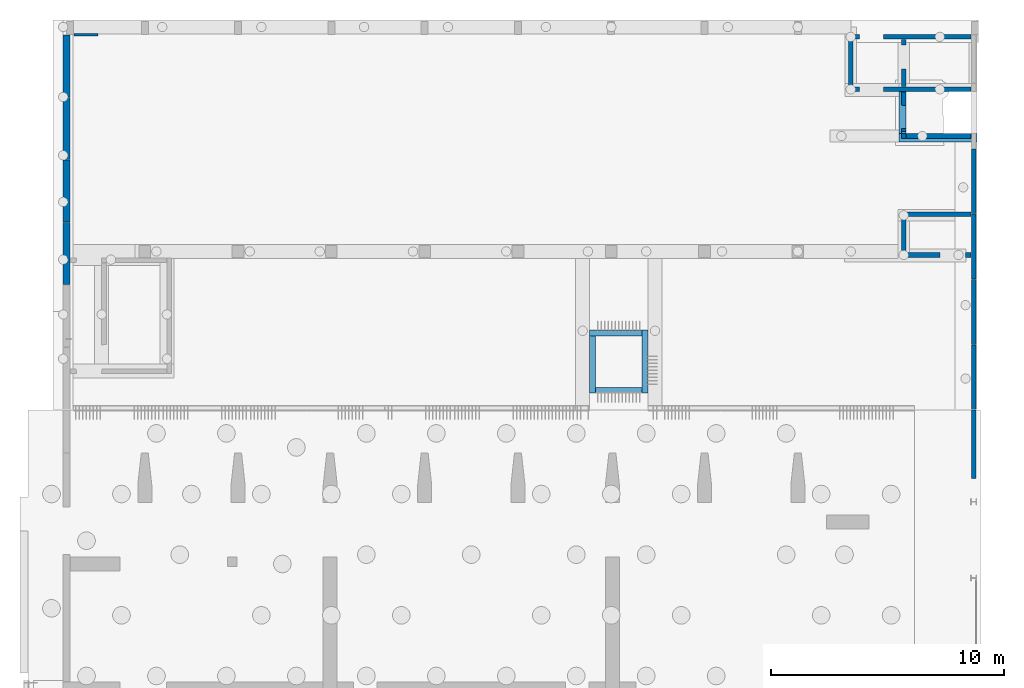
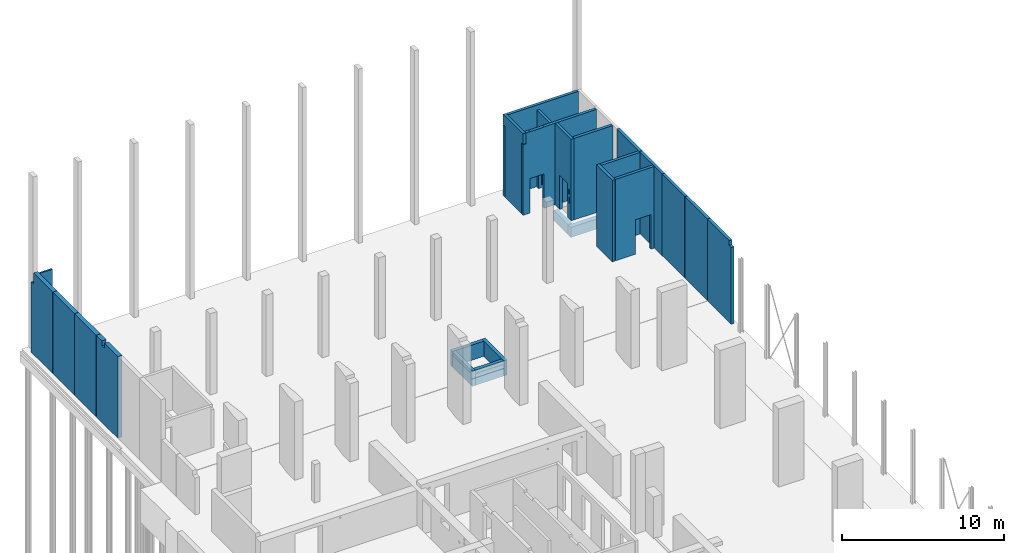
# One storey, part 20 of 26: 25 walls, 24 openings.
"""IFC2X3 building model written with IfcOpenShell, lengths in millimetres."""

from ifc_helpers import new_model, entity, si_unit, converted_unit, derived_unit, direction, frame, frame_2d, origin, origin_2d_with_axis, place, context, subcontext, project, spatial, polyline, rectangle, outline, extrude, clip, bounded_halfspace, faceted_brep, material, layer, layer_set, layer_usage, type_object, element, save


model = new_model("IFC2X3")

# Units and contexts
model_context = context("Model", 3, precision=0.01, world=origin(), true_north=direction((6.12303176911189e-17, 1.0)))
body_context = subcontext(model_context, "Body", "Model", "MODEL_VIEW")
ifc_project = project(units=[si_unit("LENGTHUNIT", "METRE", prefix="MILLI"), si_unit("AREAUNIT", "SQUARE_METRE"), si_unit("VOLUMEUNIT", "CUBIC_METRE"), converted_unit("PLANEANGLEUNIT", "DEGREE", entity("IfcRatioMeasure", 0.0174532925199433), si_unit("PLANEANGLEUNIT", "RADIAN"), dimensions=[0, 0, 0, 0, 0, 0, 0]), si_unit("MASSUNIT", "GRAM", prefix="KILO"), derived_unit("MASSDENSITYUNIT", [(si_unit("MASSUNIT", "GRAM", prefix="KILO"), 1), (si_unit("LENGTHUNIT", "METRE"), -3)]), si_unit("TIMEUNIT", "SECOND"), si_unit("FREQUENCYUNIT", "HERTZ"), si_unit("THERMODYNAMICTEMPERATUREUNIT", "DEGREE_CELSIUS"), derived_unit("THERMALTRANSMITTANCEUNIT", [(si_unit("MASSUNIT", "GRAM", prefix="KILO"), 1), (si_unit("THERMODYNAMICTEMPERATUREUNIT", "KELVIN"), -1), (si_unit("TIMEUNIT", "SECOND"), -3)]), derived_unit("VOLUMETRICFLOWRATEUNIT", [(si_unit("LENGTHUNIT", "METRE"), 3), (si_unit("TIMEUNIT", "SECOND"), -1)]), si_unit("ELECTRICCURRENTUNIT", "AMPERE"), si_unit("ELECTRICVOLTAGEUNIT", "VOLT"), si_unit("POWERUNIT", "WATT"), si_unit("FORCEUNIT", "NEWTON", prefix="KILO"), si_unit("ILLUMINANCEUNIT", "LUX"), si_unit("LUMINOUSFLUXUNIT", "LUMEN"), si_unit("LUMINOUSINTENSITYUNIT", "CANDELA"), derived_unit("USERDEFINED", [(si_unit("MASSUNIT", "GRAM", prefix="KILO"), -1), (si_unit("LENGTHUNIT", "METRE"), -2), (si_unit("TIMEUNIT", "SECOND"), 3), (si_unit("LUMINOUSFLUXUNIT", "LUMEN"), 1)]), derived_unit("LINEARVELOCITYUNIT", [(si_unit("LENGTHUNIT", "METRE"), 1), (si_unit("TIMEUNIT", "SECOND"), -1)]), si_unit("PRESSUREUNIT", "PASCAL"), derived_unit("USERDEFINED", [(si_unit("LENGTHUNIT", "METRE"), -2), (si_unit("MASSUNIT", "GRAM", prefix="KILO"), 1), (si_unit("TIMEUNIT", "SECOND"), -2)])], contexts=[model_context])

# Site, building, storey
site_placement = place(None, origin())
site = spatial("IfcSite", under=ifc_project, at=site_placement, Name="Default", CompositionType="ELEMENT")
building_placement = place(site_placement, origin())
building = spatial("IfcBuilding", under=site, at=building_placement, Name="niet gebruiken", CompositionType="ELEMENT")
storey_placement = place(building_placement, origin())
storey = spatial("IfcBuildingStorey", under=building, at=storey_placement, Name="00 begane grond", CompositionType="ELEMENT", Elevation=0.0)

# Wall, opening
ifc_material_1 = material(Name="NLRS_f2_beton prefab")
ifc_layer_1 = layer(ifc_material_1, 200.0)
ifc_layer_set_1 = layer_set([ifc_layer_1], Name="Basic Wall:NLRS_21.21_WA_beton prefab d=200_gen")
ifc_layer_usage_1 = layer_usage(ifc_layer_set_1, "AXIS2", "NEGATIVE", 100.0)
wall_type_1 = type_object("IfcWallType", Name="Basic Wall:NLRS_21.21_WA_beton prefab d=200_gen", PredefinedType="STANDARD", material=ifc_layer_set_1)
wall_1_placement = place(storey_placement, frame((163290.0, 33770.0, -220.0), z_axis=(0.0, 0.0, 1.0), x_axis=(0.0, 1.0, 0.0)))
wall_1 = element("IfcWallStandardCase", 1, at=wall_1_placement, inside=storey, type_object=wall_type_1, material=ifc_layer_usage_1, Name="Basic Wall:NLRS_21.21_WA_beton prefab d=200_gen", ObjectType="Basic Wall:NLRS_21.21_WA_beton prefab d=200_gen", context=body_context, shape_type="SweptSolid", body=[
    extrude(rectangle(XDim=2930.00000000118, YDim=200.000000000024, at=frame_2d((1465.00000000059, 0.0), x_axis=(-1.0, 0.0))), origin(), (0.0, 0.0, 1.0), 6150.0),
])
opening_1_placement = place(wall_1_placement, origin())
element("IfcOpeningElement", 2, at=opening_1_placement, cuts=wall_1, Name="Basic Wall:NLRS_21.21_WA_beton prefab d=200_gen", ObjectType="Opening", context=body_context, shape_type="SweptSolid", body=[
    extrude(rectangle(XDim=359.999999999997, YDim=256.999999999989, at=frame_2d((2.17426077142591e-12, 0.0), x_axis=(0.0, 1.0))), frame((128.499999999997, 100.0, 5970.0), z_axis=(0.0, -1.0, 0.0), x_axis=(-1.0, 0.0, 0.0)), (0.0, 0.0, 1.0), 200.0),
])

# Walls
ifc_layer_usage_2 = layer_usage(ifc_layer_set_1, "AXIS2", "NEGATIVE", 100.0)
wall_2_placement = place(storey_placement, frame((163290.0, 36720.0, -220.0), z_axis=(0.0, 0.0, 1.0), x_axis=(0.0, 1.0, 0.0)))
element("IfcWallStandardCase", 3, at=wall_2_placement, inside=storey, type_object=wall_type_1, material=ifc_layer_usage_2, Name="Basic Wall:NLRS_21.21_WA_beton prefab d=200_gen", ObjectType="Basic Wall:NLRS_21.21_WA_beton prefab d=200_gen", context=body_context, shape_type="SweptSolid", body=[
    extrude(rectangle(XDim=2780.0, YDim=200.000000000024, at=frame_2d((1390.0, 0.0), x_axis=(-1.0, 0.0))), origin(), (0.0, 0.0, 1.0), 6150.0),
])
ifc_layer_usage_3 = layer_usage(ifc_layer_set_1, "AXIS2", "NEGATIVE", 100.0)
wall_3_placement = place(storey_placement, frame((163290.0, 39520.0, -220.0), z_axis=(0.0, 0.0, 1.0), x_axis=(0.0, 1.0, 0.0)))
element("IfcWallStandardCase", 4, at=wall_3_placement, inside=storey, type_object=wall_type_1, material=ifc_layer_usage_3, Name="Basic Wall:NLRS_21.21_WA_beton prefab d=200_gen", ObjectType="Basic Wall:NLRS_21.21_WA_beton prefab d=200_gen", context=body_context, shape_type="SweptSolid", body=[
    extrude(rectangle(XDim=2780.0, YDim=200.000000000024, at=frame_2d((1390.0, 0.0), x_axis=(-1.0, 0.0))), origin(), (0.0, 0.0, 1.0), 6150.0),
])
ifc_layer_usage_4 = layer_usage(ifc_layer_set_1, "AXIS2", "NEGATIVE", 100.0)
wall_4_placement = place(storey_placement, frame((163290.0, 42320.0, -220.0), z_axis=(0.0, 0.0, 1.0), x_axis=(0.0, 1.0, 0.0)))
element("IfcWallStandardCase", 5, at=wall_4_placement, inside=storey, type_object=wall_type_1, material=ifc_layer_usage_4, Name="Basic Wall:NLRS_21.21_WA_beton prefab d=200_gen", ObjectType="Basic Wall:NLRS_21.21_WA_beton prefab d=200_gen", context=body_context, shape_type="SweptSolid", body=[
    extrude(rectangle(XDim=2780.0, YDim=200.000000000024, at=frame_2d((1390.0, 0.0), x_axis=(-1.0, 0.0))), origin(), (0.0, 0.0, 1.0), 6150.0),
])
ifc_layer_usage_5 = layer_usage(ifc_layer_set_1, "AXIS2", "NEGATIVE", 100.0)
wall_5_placement = place(storey_placement, frame((163290.0, 45120.0, -220.0), z_axis=(0.0, 0.0, 1.0), x_axis=(0.0, 1.0, 0.0)))
element("IfcWallStandardCase", 6, at=wall_5_placement, inside=storey, type_object=wall_type_1, material=ifc_layer_usage_5, Name="Basic Wall:NLRS_21.21_WA_beton prefab d=200_gen", ObjectType="Basic Wall:NLRS_21.21_WA_beton prefab d=200_gen", context=body_context, shape_type="SweptSolid", body=[
    extrude(rectangle(XDim=2780.0, YDim=200.000000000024, at=frame_2d((1390.0, 0.0), x_axis=(-1.0, 0.0))), origin(), (0.0, 0.0, 1.0), 6150.0),
])
ifc_layer_2 = layer(ifc_material_1, 200.0)
ifc_layer_set_2 = layer_set([ifc_layer_2], Name="Basic Wall:NLRS_22.21_WA_beton prefab d=200_gen")
ifc_layer_usage_6 = layer_usage(ifc_layer_set_2, "AXIS2", "NEGATIVE", 100.0)
wall_type_2 = type_object("IfcWallType", Name="Basic Wall:NLRS_22.21_WA_beton prefab d=200_gen", PredefinedType="STANDARD", material=ifc_layer_set_2)
wall_6_placement = place(storey_placement, frame((160410.0, 45100.0, -220.0)))
element("IfcWallStandardCase", 7, at=wall_6_placement, inside=storey, type_object=wall_type_2, material=ifc_layer_usage_6, Name="Basic Wall:NLRS_22.21_WA_beton prefab d=200_gen", ObjectType="Basic Wall:NLRS_22.21_WA_beton prefab d=200_gen", context=body_context, shape_type="SweptSolid", body=[
    extrude(rectangle(XDim=2760.00000000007, YDim=200.000000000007, at=frame_2d((1380.00000000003, -2.27373675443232e-13), x_axis=(-1.0, 0.0))), origin(), (0.0, 0.0, 1.0), 6150.0),
])

# Wall, openings
ifc_layer_usage_7 = layer_usage(ifc_layer_set_2, "AXIS2", "NEGATIVE", 100.0)
wall_7_placement = place(storey_placement, frame((160410.0, 43350.0, -220.0)))
wall_7 = element("IfcWallStandardCase", 8, at=wall_7_placement, inside=storey, type_object=wall_type_2, material=ifc_layer_usage_7, Name="Basic Wall:NLRS_22.21_WA_beton prefab d=200_gen", ObjectType="Basic Wall:NLRS_22.21_WA_beton prefab d=200_gen", context=body_context, shape_type="SweptSolid", body=[
    extrude(rectangle(XDim=2760.00000000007, YDim=200.000000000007, at=frame_2d((1380.00000000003, -2.27373675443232e-13), x_axis=(-1.0, 0.0))), origin(), (0.0, 0.0, 1.0), 6150.0),
])
opening_2_placement = place(wall_7_placement, origin())
element("IfcOpeningElement", 9, at=opening_2_placement, cuts=wall_7, Name="Basic Wall:NLRS_22.21_WA_beton prefab d=200_gen", ObjectType="Opening", context=body_context, shape_type="SweptSolid", body=[
    extrude(rectangle(XDim=2605.0, YDim=1080.0, at=origin_2d_with_axis()), frame((1980.0, -100.0, 1302.5), z_axis=(0.0, 1.0, 0.0), x_axis=(0.0, 0.0, -1.0)), (0.0, 0.0, 1.0), 200.000000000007),
])
opening_3_placement = place(wall_7_placement, frame((1428.0, -100.0, 0.0)))
element("IfcOpeningElement", 10, at=opening_3_placement, cuts=wall_7, Name="Basic Wall:NLRS_22.21_WA_beton prefab d=200_gen", ObjectType="Opening", context=body_context, shape_type="Brep", body=[
    faceted_brep([(12.0, 0.0, 2605.0), (12.0, 0.0, 0.0), (1092.0, 0.0, 0.0), (1092.0, 0.0, 2605.0), (0.0, 200.0, 2617.0), (1104.0, 200.0, 2617.0), (1104.0, 200.0, 0.0), (0.0, 200.0, 0.0)], [[[0, 1, 2, 3]], [[4, 5, 6, 7]], [[4, 0, 3, 5]], [[5, 3, 2, 6]], [[6, 2, 1, 7]], [[7, 1, 0, 4]]]),
])

# Walls
ifc_layer_usage_8 = layer_usage(ifc_layer_set_2, "AXIS2", "NEGATIVE", 100.0)
wall_8_placement = place(storey_placement, frame((160290.0, 43250.0, -220.0), z_axis=(0.0, 0.0, 1.0), x_axis=(0.0, 1.0, 0.0)))
element("IfcWallStandardCase", 11, at=wall_8_placement, inside=storey, type_object=wall_type_2, material=ifc_layer_usage_8, Name="Basic Wall:NLRS_22.21_WA_beton prefab d=200_gen", ObjectType="Basic Wall:NLRS_22.21_WA_beton prefab d=200_gen", context=body_context, shape_type="SweptSolid", body=[
    extrude(rectangle(XDim=1950.00000000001, YDim=200.000000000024, at=frame_2d((975.000000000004, 8.95283847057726e-13), x_axis=(-1.0, 0.0))), origin(), (0.0, 0.0, 1.0), 6150.0),
])
ifc_layer_usage_9 = layer_usage(ifc_layer_set_2, "AXIS2", "POSITIVE", -100.0)
wall_9_placement = place(storey_placement, frame((160410.0, 48450.0, -220.0)))
element("IfcWallStandardCase", 12, at=wall_9_placement, inside=storey, type_object=wall_type_2, material=ifc_layer_usage_9, Name="Basic Wall:NLRS_22.21_WA_beton prefab d=200_gen", ObjectType="Basic Wall:NLRS_22.21_WA_beton prefab d=200_gen", context=body_context, shape_type="SweptSolid", body=[
    extrude(rectangle(XDim=2759.99999999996, YDim=200.000000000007, at=frame_2d((1379.99999999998, -2.27373675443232e-13), x_axis=(-1.0, 0.0))), origin(), (0.0, 0.0, 1.0), 6150.0),
])

# Wall, openings
ifc_layer_usage_10 = layer_usage(ifc_layer_set_2, "AXIS2", "NEGATIVE", 100.0)
wall_10_placement = place(storey_placement, frame((157920.0, 50450.0, -220.0)))
wall_10 = element("IfcWallStandardCase", 13, at=wall_10_placement, inside=storey, type_object=wall_type_2, material=ifc_layer_usage_10, Name="Basic Wall:NLRS_22.21_WA_beton prefab d=200_gen", ObjectType="Basic Wall:NLRS_22.21_WA_beton prefab d=200_gen", context=body_context, shape_type="SweptSolid", body=[
    extrude(rectangle(XDim=5249.99999999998, YDim=200.000000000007, at=frame_2d((2624.99999999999, -8.59756710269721e-13), x_axis=(-1.0, 0.0))), origin(), (0.0, 0.0, 1.0), 6150.0),
])
opening_4_placement = place(wall_10_placement, origin())
element("IfcOpeningElement", 14, at=opening_4_placement, cuts=wall_10, Name="Basic Wall:NLRS_22.21_WA_beton prefab d=200_gen", ObjectType="Opening", context=body_context, shape_type="SweptSolid", body=[
    extrude(rectangle(XDim=820.0, YDim=219.999999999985, at=frame_2d((0.0, 1.73301373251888e-11), x_axis=(1.0, 0.0))), frame((110.0, -100.0, 5740.0), z_axis=(0.0, 1.0, 0.0), x_axis=(0.0, 0.0, -1.0)), (0.0, 0.0, 1.0), 200.000000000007),
])
opening_5_placement = place(wall_10_placement, origin())
element("IfcOpeningElement", 15, at=opening_5_placement, cuts=wall_10, Name="Basic Wall:NLRS_22.21_WA_beton prefab d=200_gen", ObjectType="Opening", context=body_context, shape_type="SweptSolid", body=[
    extrude(rectangle(XDim=2605.0, YDim=1016.00000000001, at=origin_2d_with_axis()), frame((989.0, -100.0, 1302.5), z_axis=(0.0, 1.0, 0.0), x_axis=(0.0, 0.0, -1.0)), (0.0, 0.0, 1.0), 200.000000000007),
])
opening_6_placement = place(wall_10_placement, frame((469.0, -100.0, 0.0)))
element("IfcOpeningElement", 16, at=opening_6_placement, cuts=wall_10, Name="Basic Wall:NLRS_22.21_WA_beton prefab d=200_gen", ObjectType="Opening", context=body_context, shape_type="Brep", body=[
    faceted_brep([(1028.0, 0.0, 2605.0), (12.0, 0.0, 2605.0), (12.0, 0.0, 0.0), (1028.0, 0.0, 0.0), (1040.0, 200.0, 2617.0), (1040.0, 200.0, 0.0), (0.0, 200.0, 0.0), (0.0, 200.0, 2617.0)], [[[0, 1, 2, 3]], [[4, 5, 6, 7]], [[4, 7, 1, 0]], [[7, 6, 2, 1]], [[6, 5, 3, 2]], [[5, 4, 0, 3]]]),
])
opening_7_placement = place(wall_10_placement, origin())
element("IfcOpeningElement", 17, at=opening_7_placement, cuts=wall_10, Name="Basic Wall:NLRS_22.21_WA_beton prefab d=200_gen", ObjectType="Opening", context=body_context, shape_type="SweptSolid", body=[
    extrude(rectangle(XDim=19.9999999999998, YDim=1040.00000000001, at=frame_2d((0.0, 1.72803993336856e-11), x_axis=(1.0, 0.0))), frame((989.0, -100.0, 6140.0), z_axis=(0.0, 1.0, 0.0), x_axis=(0.0, 0.0, -1.0)), (0.0, 0.0, 1.0), 200.000000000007),
])

ifc_layer_usage_11 = layer_usage(ifc_layer_set_2, "AXIS2", "NEGATIVE", 100.0)
wall_11_placement = place(storey_placement, frame((157920.0, 52700.0, -220.0)))
wall_11 = element("IfcWallStandardCase", 18, at=wall_11_placement, inside=storey, type_object=wall_type_2, material=ifc_layer_usage_11, Name="Basic Wall:NLRS_22.21_WA_beton prefab d=200_gen", ObjectType="Basic Wall:NLRS_22.21_WA_beton prefab d=200_gen", context=body_context, shape_type="SweptSolid", body=[
    extrude(rectangle(XDim=5250.00000000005, YDim=200.000000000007, at=frame_2d((2625.00000000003, -8.59756710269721e-13), x_axis=(-1.0, 0.0))), origin(), (0.0, 0.0, 1.0), 6150.0),
])
opening_8_placement = place(wall_11_placement, origin())
element("IfcOpeningElement", 19, at=opening_8_placement, cuts=wall_11, Name="Basic Wall:NLRS_22.21_WA_beton prefab d=200_gen", ObjectType="Opening", context=body_context, shape_type="SweptSolid", body=[
    extrude(rectangle(XDim=2605.0, YDim=1016.00000000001, at=origin_2d_with_axis()), frame((989.0, -100.0, 1302.5), z_axis=(0.0, 1.0, 0.0), x_axis=(0.0, 0.0, -1.0)), (0.0, 0.0, 1.0), 200.000000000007),
])
opening_9_placement = place(wall_11_placement, origin())
element("IfcOpeningElement", 20, at=opening_9_placement, cuts=wall_11, Name="Basic Wall:NLRS_22.21_WA_beton prefab d=200_gen", ObjectType="Opening", context=body_context, shape_type="SweptSolid", body=[
    extrude(rectangle(XDim=820.0, YDim=219.999999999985, at=frame_2d((0.0, 1.73301373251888e-11), x_axis=(1.0, 0.0))), frame((110.0, -100.0, 5740.0), z_axis=(0.0, 1.0, 0.0), x_axis=(0.0, 0.0, -1.0)), (0.0, 0.0, 1.0), 200.000000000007),
])
opening_10_placement = place(wall_11_placement, frame((469.0, -100.0, 0.0)))
element("IfcOpeningElement", 21, at=opening_10_placement, cuts=wall_11, Name="Basic Wall:NLRS_22.21_WA_beton prefab d=200_gen", ObjectType="Opening", context=body_context, shape_type="Brep", body=[
    faceted_brep([(12.0, 200.0, 2605.0), (1028.0, 200.0, 2605.0), (1028.0, 200.0, 0.0), (12.0, 200.0, 0.0), (0.0, 0.0, 2617.0), (0.0, 0.0, 0.0), (1040.0, 0.0, 0.0), (1040.0, 0.0, 2617.0)], [[[0, 1, 2, 3]], [[4, 5, 6, 7]], [[4, 7, 1, 0]], [[7, 6, 2, 1]], [[6, 5, 3, 2]], [[5, 4, 0, 3]]]),
])

ifc_layer_usage_12 = layer_usage(ifc_layer_set_2, "AXIS2", "NEGATIVE", 100.0)
wall_12_placement = place(storey_placement, frame((158020.0, 50350.0, -220.0), z_axis=(0.0, 0.0, 1.0), x_axis=(0.0, 1.0, 0.0)))
wall_12 = element("IfcWallStandardCase", 22, at=wall_12_placement, inside=storey, type_object=wall_type_2, material=ifc_layer_usage_12, Name="Basic Wall:NLRS_22.21_WA_beton prefab d=200_gen", ObjectType="Basic Wall:NLRS_22.21_WA_beton prefab d=200_gen", context=body_context, shape_type="SweptSolid", body=[
    extrude(rectangle(XDim=2450.0, YDim=200.000000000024, at=frame_2d((1225.0, 0.0), x_axis=(-1.0, 0.0))), origin(), (0.0, 0.0, 1.0), 6150.0),
])
opening_11_placement = place(wall_12_placement, origin())
element("IfcOpeningElement", 23, at=opening_11_placement, cuts=wall_12, Name="Basic Wall:NLRS_22.21_WA_beton prefab d=200_gen", ObjectType="Opening", context=body_context, shape_type="SweptSolid", body=[
    extrude(rectangle(XDim=5350.0, YDim=220.000000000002, at=origin_2d_with_axis()), frame((2340.0, -100.0, 2675.0), z_axis=(0.0, 1.0, 0.0), x_axis=(0.0, 0.0, -1.0)), (0.0, 0.0, 1.0), 200.000000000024),
])
opening_12_placement = place(wall_12_placement, origin())
element("IfcOpeningElement", 24, at=opening_12_placement, cuts=wall_12, Name="Basic Wall:NLRS_22.21_WA_beton prefab d=200_gen", ObjectType="Opening", context=body_context, shape_type="SweptSolid", body=[
    extrude(rectangle(XDim=5350.0, YDim=220.000000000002, at=origin_2d_with_axis()), frame((110.0, -100.0, 2675.0), z_axis=(0.0, 1.0, 0.0), x_axis=(0.0, 0.0, -1.0)), (0.0, 0.0, 1.0), 200.000000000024),
])

ifc_layer_usage_13 = layer_usage(ifc_layer_set_2, "AXIS2", "NEGATIVE", 100.0)
wall_13_placement = place(storey_placement, frame((160290.0, 48350.0, -220.0), z_axis=(0.0, 0.0, 1.0), x_axis=(0.0, 1.0, 0.0)))
wall_13 = element("IfcWallStandardCase", 25, at=wall_13_placement, inside=storey, type_object=wall_type_2, material=ifc_layer_usage_13, Name="Basic Wall:NLRS_22.21_WA_beton prefab d=200_gen", ObjectType="Basic Wall:NLRS_22.21_WA_beton prefab d=200_gen", context=body_context, shape_type="SweptSolid", body=[
    extrude(rectangle(XDim=1980.0, YDim=200.000000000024, at=frame_2d((990.0, 9.02389274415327e-13), x_axis=(-1.0, 0.0))), origin(), (0.0, 0.0, 1.0), 6150.0),
])
opening_13_placement = place(wall_13_placement, frame((418.0, 100.0, -30.0)))
element("IfcOpeningElement", 26, at=opening_13_placement, cuts=wall_13, Name="Basic Wall:NLRS_22.21_WA_beton prefab d=200_gen", ObjectType="Opening", context=body_context, shape_type="Brep", body=[
    faceted_brep([(12.0, -200.0, 2590.0), (12.0, -200.0, 0.0), (992.0, -200.0, 0.0), (992.0, -200.0, 2590.0), (0.0, 0.0, 2602.0), (1004.0, 0.0, 2602.0), (1004.0, 0.0, 0.0), (0.0, 0.0, 0.0)], [[[0, 1, 2, 3]], [[4, 5, 6, 7]], [[4, 0, 3, 5]], [[5, 3, 2, 6]], [[6, 2, 1, 7]], [[7, 1, 0, 4]]]),
])
opening_14_placement = place(wall_13_placement, origin())
element("IfcOpeningElement", 27, at=opening_14_placement, cuts=wall_13, Name="Basic Wall:NLRS_22.21_WA_beton prefab d=200_gen", ObjectType="Opening", context=body_context, shape_type="SweptSolid", body=[
    extrude(rectangle(XDim=505.000000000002, YDim=75.0000000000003, at=frame_2d((0.0, -1.27897692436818e-13), x_axis=(0.0, 1.0))), frame((250.0, -100.0, 1422.50000000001), z_axis=(0.0, 1.0, 0.0), x_axis=(1.0, 0.0, 0.0)), (0.0, 0.0, 1.0), 200.000000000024),
])
opening_15_placement = place(wall_13_placement, origin())
element("IfcOpeningElement", 28, at=opening_15_placement, cuts=wall_13, Name="Basic Wall:NLRS_22.21_WA_beton prefab d=200_gen", ObjectType="Opening", context=body_context, shape_type="SweptSolid", body=[
    extrude(rectangle(XDim=370.000000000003, YDim=100.000000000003, at=frame_2d((-8.66506866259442e-12, 0.0), x_axis=(0.0, 1.0))), frame((250.0, -100.0, 2055.0), z_axis=(0.0, 1.0, 0.0), x_axis=(1.0, 0.0, 0.0)), (0.0, 0.0, 1.0), 200.000000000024),
])

ifc_layer_usage_14 = layer_usage(ifc_layer_set_2, "AXIS2", "NEGATIVE", 100.0)
wall_14_placement = place(storey_placement, frame((160290.0, 50570.0, -220.0), z_axis=(0.0, 0.0, 1.0), x_axis=(0.0, 1.0, 0.0)))
wall_14 = element("IfcWallStandardCase", 29, at=wall_14_placement, inside=storey, type_object=wall_type_2, material=ifc_layer_usage_14, Name="Basic Wall:NLRS_22.21_WA_beton prefab d=200_gen", ObjectType="Basic Wall:NLRS_22.21_WA_beton prefab d=200_gen", context=body_context, shape_type="SweptSolid", body=[
    extrude(rectangle(XDim=2009.99999999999, YDim=200.000000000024, at=frame_2d((1005.0, 9.16600129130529e-13), x_axis=(-1.0, 0.0))), origin(), (0.0, 0.0, 1.0), 5775.0),
])
opening_16_placement = place(wall_14_placement, origin())
element("IfcOpeningElement", 30, at=opening_16_placement, cuts=wall_14, Name="Basic Wall:NLRS_22.21_WA_beton prefab d=200_gen", ObjectType="Opening", context=body_context, shape_type="SweptSolid", body=[
    extrude(rectangle(XDim=2605.0, YDim=1016.0, at=origin_2d_with_axis()), frame((1272.0, -100.0, 1302.5), z_axis=(0.0, 1.0, 0.0), x_axis=(0.0, 0.0, -1.0)), (0.0, 0.0, 1.0), 200.000000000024),
])
opening_17_placement = place(wall_14_placement, frame((752.0, 100.0, 0.0)))
element("IfcOpeningElement", 31, at=opening_17_placement, cuts=wall_14, Name="Basic Wall:NLRS_22.21_WA_beton prefab d=200_gen", ObjectType="Opening", context=body_context, shape_type="Brep", body=[
    faceted_brep([(1028.0, -200.0, 2605.0), (12.0, -200.0, 2605.0), (12.0, -200.0, 0.0), (1028.0, -200.0, 0.0), (1040.0, 0.0, 2617.0), (1040.0, 0.0, 0.0), (0.0, 0.0, 0.0), (0.0, 0.0, 2617.0)], [[[0, 1, 2, 3]], [[4, 5, 6, 7]], [[4, 7, 1, 0]], [[7, 6, 2, 1]], [[6, 5, 3, 2]], [[5, 4, 0, 3]]]),
])

# Wall, opening
ifc_layer_3 = layer(ifc_material_1, 300.0)
ifc_layer_set_3 = layer_set([ifc_layer_3], Name="Basic Wall:NLRS_22.21_WA_beton prefab d=300_gen")
ifc_layer_usage_15 = layer_usage(ifc_layer_set_3, "AXIS2", "NEGATIVE", 150.0)
wall_type_3 = type_object("IfcWallType", Name="Basic Wall:NLRS_22.21_WA_beton prefab d=300_gen", PredefinedType="STANDARD", material=ifc_layer_set_3)
wall_15_placement = place(storey_placement, frame((124400.0, 42080.0, -220.0), z_axis=(0.0, 0.0, 1.0), x_axis=(0.0, 1.0, 0.0)))
wall_15 = element("IfcWallStandardCase", 32, at=wall_15_placement, inside=storey, type_object=wall_type_3, material=ifc_layer_usage_15, Name="Basic Wall:NLRS_22.21_WA_beton prefab d=300_gen", ObjectType="Basic Wall:NLRS_22.21_WA_beton prefab d=300_gen", context=body_context, shape_type="SweptSolid", body=[
    extrude(rectangle(XDim=2660.0, YDim=300.000000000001, at=frame_2d((1330.0, 0.0), x_axis=(-1.0, 0.0))), origin(), (0.0, 0.0, 1.0), 6150.0),
])
opening_18_placement = place(wall_15_placement, origin())
element("IfcOpeningElement", 33, at=opening_18_placement, cuts=wall_15, Name="Basic Wall:NLRS_22.21_WA_beton prefab d=300_gen", ObjectType="Opening", context=body_context, shape_type="SweptSolid", body=[
    extrude(rectangle(XDim=360.000000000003, YDim=300.000000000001, at=frame_2d((0.0, 0.0), x_axis=(0.0, 1.0))), frame((1810.0, 150.0, 5970.0), z_axis=(0.0, -1.0, 0.0), x_axis=(-1.0, 0.0, 0.0)), (0.0, 0.0, 1.0), 300.0),
])

# Walls
ifc_layer_usage_16 = layer_usage(ifc_layer_set_3, "AXIS2", "NEGATIVE", 150.0)
wall_16_placement = place(storey_placement, frame((124400.0, 44760.0, -220.0), z_axis=(0.0, 0.0, 1.0), x_axis=(0.0, 1.0, 0.0)))
element("IfcWallStandardCase", 34, at=wall_16_placement, inside=storey, type_object=wall_type_3, material=ifc_layer_usage_16, Name="Basic Wall:NLRS_22.21_WA_beton prefab d=300_gen", ObjectType="Basic Wall:NLRS_22.21_WA_beton prefab d=300_gen", context=body_context, shape_type="SweptSolid", body=[
    extrude(rectangle(XDim=2660.0, YDim=300.000000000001, at=frame_2d((1330.0, 0.0), x_axis=(-1.0, 0.0))), origin(), (0.0, 0.0, 1.0), 6150.0),
])
ifc_layer_usage_17 = layer_usage(ifc_layer_set_3, "AXIS2", "NEGATIVE", 150.0)
wall_17_placement = place(storey_placement, frame((124400.0, 47440.0, -220.0), z_axis=(0.0, 0.0, 1.0), x_axis=(0.0, 1.0, 0.0)))
element("IfcWallStandardCase", 35, at=wall_17_placement, inside=storey, type_object=wall_type_3, material=ifc_layer_usage_17, Name="Basic Wall:NLRS_22.21_WA_beton prefab d=300_gen", ObjectType="Basic Wall:NLRS_22.21_WA_beton prefab d=300_gen", context=body_context, shape_type="SweptSolid", body=[
    extrude(rectangle(XDim=2660.00000000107, YDim=300.000000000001, at=frame_2d((1330.00000000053, 0.0), x_axis=(-1.0, 0.0))), origin(), (0.0, 0.0, 1.0), 6150.0),
])
ifc_material_2 = material(Name="NLRS_f2_beton ihwg")
ifc_layer_4 = layer(ifc_material_2, 350.0)
ifc_layer_set_4 = layer_set([ifc_layer_4], Name="Basic Wall:NLRS_16.21_WA_beton ihwg d=350_gen")
ifc_layer_usage_18 = layer_usage(ifc_layer_set_4, "AXIS2", "NEGATIVE", 175.0)
wall_type_4 = type_object("IfcWallType", Name="Basic Wall:NLRS_16.21_WA_beton ihwg d=350_gen", PredefinedType="NOTDEFINED")
wall_18_placement = place(storey_placement, frame((160090.0, 48375.0, -1366.0)))
element("IfcWallStandardCase", 36, at=wall_18_placement, inside=storey, type_object=wall_type_4, material=ifc_layer_usage_18, Name="Basic Wall:NLRS_16.21_WA_beton ihwg d=350_gen", ObjectType="Basic Wall:NLRS_16.21_WA_beton ihwg d=350_gen", context=body_context, shape_type="Clipping", body=[
    clip(clip(extrude(rectangle(XDim=3350.0000000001, YDim=350.000000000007, at=frame_2d((1675.00000000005, 6.3948846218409e-13), x_axis=(-1.0, 0.0))), origin(), (0.0, 0.0, 1.0), 766.0), bounded_halfspace(frame((1909.04518691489, 175.0, 16.0)), True, frame((1909.04518691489, 175.0, 16.0)), polyline([(0.0, 0.0), (-1609.04518691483, 0.0), (-1909.0451869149, 0.0), (-1909.0451869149, -350.0), (6.25319040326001, -350.0), (0.0, 0.0)]))), bounded_halfspace(frame((1915.29837731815, -175.0, 16.0), z_axis=(0.99984043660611, 0.0178634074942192, 0.0), x_axis=(0.0, 0.0, 1.0)), True, frame((1915.29837731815, -175.0, 16.0), z_axis=(0.99984043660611, 0.0178634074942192, 0.0), x_axis=(0.0, 0.0, 1.0)), polyline([(0.0, 0.0), (-16.0, 0.0), (-16.0, -350.055856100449), (0.0, -350.055856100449), (0.0, 0.0)]))),
])
ifc_layer_5 = layer(ifc_material_2, 300.0)
ifc_layer_set_5 = layer_set([ifc_layer_5], Name="Basic Wall:NLRS_16.21_WA_beton ihwg d=300_gen")
ifc_layer_usage_19 = layer_usage(ifc_layer_set_5, "AXIS2", "NEGATIVE", 150.0)
wall_type_5 = type_object("IfcWallType", Name="Basic Wall:NLRS_16.21_WA_beton ihwg d=300_gen", PredefinedType="STANDARD", material=ifc_layer_set_5)
wall_19_placement = place(storey_placement, frame((160240.0, 48550.0, -1350.0), z_axis=(0.0, 0.0, 1.0), x_axis=(0.0, 1.0, 0.0)))
element("IfcWallStandardCase", 37, at=wall_19_placement, inside=storey, type_object=wall_type_5, material=ifc_layer_usage_19, Name="Basic Wall:NLRS_16.21_WA_beton ihwg d=300_gen", ObjectType="Basic Wall:NLRS_16.21_WA_beton ihwg d=300_gen", context=body_context, shape_type="SweptSolid", body=[
    extrude(rectangle(XDim=1799.99999999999, YDim=300.000000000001, at=frame_2d((899.999999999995, 0.0), x_axis=(-1.0, 0.0))), origin(), (0.0, 0.0, 1.0), 750.0),
])

# Wall, opening
ifc_layer_6 = layer(ifc_material_1, 250.0)
ifc_layer_set_6 = layer_set([ifc_layer_6], Name="Basic Wall:NLRS_21.21_WA_beton prefab d=250_gen")
ifc_layer_usage_20 = layer_usage(ifc_layer_set_6, "AXIS2", "NEGATIVE", 125.0)
wall_type_6 = type_object("IfcWallType", Name="Basic Wall:NLRS_21.21_WA_beton prefab d=250_gen", PredefinedType="STANDARD", material=ifc_layer_set_6)
wall_20_placement = place(storey_placement, frame((146825.0, 40000.0, -1400.0)))
wall_20 = element("IfcWallStandardCase", 38, at=wall_20_placement, inside=storey, type_object=wall_type_6, material=ifc_layer_usage_20, Name="Basic Wall:NLRS_21.21_WA_beton prefab d=250_gen", ObjectType="Basic Wall:NLRS_21.21_WA_beton prefab d=250_gen", context=body_context, shape_type="SweptSolid", body=[
    extrude(rectangle(XDim=2249.99999999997, YDim=249.999999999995, at=frame_2d((1124.99999999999, 0.0), x_axis=(-1.0, 0.0))), origin(), (0.0, 0.0, 1.0), 1150.0),
])
opening_19_placement = place(wall_20_placement, frame((250.0, 85.0, 879.002789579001)))
element("IfcOpeningElement", 39, at=opening_19_placement, cuts=wall_20, Name="Basic Wall:NLRS_21.21_WA_beton prefab d=250_gen", ObjectType="Opening", context=body_context, shape_type="Brep", body=[
    faceted_brep([(2000.0, 40.0, 241.007991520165), (2000.0, 26.925231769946, 241.007991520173), (2000.0, 26.7990605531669, 242.0), (2000.0, 18.8979598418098, 240.995077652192), (2000.0, 0.0, 240.995077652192), (2000.0, 0.0, 1.0), (2000.0, 18.9366613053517, 1.0), (2000.0, 26.7990605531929, 0.0), (2000.0, 26.9272728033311, 1.00805589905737), (2000.0, 40.0, 1.00805589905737), (0.0, 40.0, 241.007991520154), (0.0, 40.0, 1.00805589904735), (0.0, 26.9272728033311, 1.00805589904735), (0.0, 26.7990605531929, 0.0), (0.0, 18.9366613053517, 1.0), (0.0, 0.0, 1.0), (0.0, 0.0, 240.995077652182), (0.0, 18.8979598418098, 240.995077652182), (0.0, 26.7990605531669, 242.0), (0.0, 26.925231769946, 241.007991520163)], [[[0, 1, 2, 3, 4, 5, 6, 7, 8, 9]], [[10, 11, 12, 13, 14, 15, 16, 17, 18, 19]], [[5, 4, 16, 15]], [[6, 5, 15, 14]], [[0, 9, 11, 10]], [[1, 0, 10, 19]], [[2, 1, 19, 18]], [[3, 2, 18, 17]], [[4, 3, 17, 16]], [[7, 6, 14, 13]], [[8, 7, 13, 12]], [[9, 8, 12, 11]]]),
])

ifc_layer_usage_21 = layer_usage(ifc_layer_set_6, "AXIS2", "NEGATIVE", 125.0)
wall_21_placement = place(storey_placement, frame((146950.0, 37425.0, -1400.0), z_axis=(0.0, 0.0, 1.0), x_axis=(0.0, 1.0, 0.0)))
wall_21 = element("IfcWallStandardCase", 40, at=wall_21_placement, inside=storey, type_object=wall_type_6, material=ifc_layer_usage_21, Name="Basic Wall:NLRS_21.21_WA_beton prefab d=250_gen", ObjectType="Basic Wall:NLRS_21.21_WA_beton prefab d=250_gen", context=body_context, shape_type="SweptSolid", body=[
    extrude(rectangle(XDim=2450.00000000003, YDim=250.000000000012, at=frame_2d((1225.00000000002, 0.0), x_axis=(-1.0, 0.0))), origin(), (0.0, 0.0, 1.0), 1150.0),
])
opening_20_placement = place(wall_21_placement, frame((248.0, 125.0, 879.002789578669)))
element("IfcOpeningElement", 41, at=opening_20_placement, cuts=wall_21, Name="Basic Wall:NLRS_21.21_WA_beton prefab d=250_gen", ObjectType="Opening", context=body_context, shape_type="Brep", body=[
    faceted_brep([(2200.0, 0.0, 241.007991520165), (2200.0, -13.0747682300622, 241.007991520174), (2200.0, -13.2009394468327, 242.0), (2200.0, -21.1020401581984, 240.995077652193), (2200.0, -40.0, 240.995077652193), (2200.0, -40.0, 1.0), (2200.0, -21.0633386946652, 1.0), (2200.0, -13.2009394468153, 0.0), (2200.0, -13.0727271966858, 1.00805589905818), (2200.0, 0.0, 1.00805589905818), (0.0, 0.0, 241.007991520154), (0.0, 0.0, 1.00805589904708), (0.0, -13.0727271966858, 1.00805589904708), (0.0, -13.2009394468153, 0.0), (0.0, -21.0633386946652, 1.0), (0.0, -40.0, 1.0), (0.0, -40.0, 240.995077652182), (0.0, -21.1020401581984, 240.995077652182), (0.0, -13.2009394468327, 242.0), (0.0, -13.0747682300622, 241.007991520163)], [[[0, 1, 2, 3, 4, 5, 6, 7, 8, 9]], [[10, 11, 12, 13, 14, 15, 16, 17, 18, 19]], [[5, 4, 16, 15]], [[6, 5, 15, 14]], [[0, 9, 11, 10]], [[1, 0, 10, 19]], [[2, 1, 19, 18]], [[3, 2, 18, 17]], [[4, 3, 17, 16]], [[7, 6, 14, 13]], [[8, 7, 13, 12]], [[9, 8, 12, 11]]]),
])

ifc_layer_usage_22 = layer_usage(ifc_layer_set_6, "AXIS2", "NEGATIVE", 125.0)
wall_22_placement = place(storey_placement, frame((149200.0, 37425.0, -1400.0), z_axis=(0.0, 0.0, 1.0), x_axis=(0.0, 1.0, 0.0)))
wall_22 = element("IfcWallStandardCase", 42, at=wall_22_placement, inside=storey, type_object=wall_type_6, material=ifc_layer_usage_22, Name="Basic Wall:NLRS_21.21_WA_beton prefab d=250_gen", ObjectType="Basic Wall:NLRS_21.21_WA_beton prefab d=250_gen", context=body_context, shape_type="SweptSolid", body=[
    extrude(rectangle(XDim=2700.00000000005, YDim=250.000000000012, at=frame_2d((1350.00000000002, 0.0), x_axis=(-1.0, 0.0))), origin(), (0.0, 0.0, 1.0), 1150.0),
])
opening_21_placement = place(wall_22_placement, frame((252.0, -85.0, 879.002789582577)))
element("IfcOpeningElement", 43, at=opening_21_placement, cuts=wall_22, Name="Basic Wall:NLRS_21.21_WA_beton prefab d=250_gen", ObjectType="Opening", context=body_context, shape_type="Brep", body=[
    faceted_brep([(0.0, -40.0, 241.007991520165), (0.0, -26.9252317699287, 241.007991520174), (0.0, -26.7990605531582, 242.0), (0.0, -18.8979598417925, 240.995077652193), (0.0, 0.0, 240.995077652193), (0.0, 0.0, 1.0), (0.0, -18.9366613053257, 1.0), (0.0, -26.7990605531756, 0.0), (0.0, -26.9272728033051, 1.00805589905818), (0.0, -40.0, 1.00805589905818), (2200.0, -40.0, 241.007991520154), (2200.0, -40.0, 1.00805589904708), (2200.0, -26.9272728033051, 1.00805589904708), (2200.0, -26.7990605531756, 0.0), (2200.0, -18.9366613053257, 1.0), (2200.0, 0.0, 1.0), (2200.0, 0.0, 240.995077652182), (2200.0, -18.8979598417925, 240.995077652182), (2200.0, -26.7990605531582, 242.0), (2200.0, -26.9252317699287, 241.007991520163)], [[[0, 1, 2, 3, 4, 5, 6, 7, 8, 9]], [[10, 11, 12, 13, 14, 15, 16, 17, 18, 19]], [[5, 4, 16, 15]], [[6, 5, 15, 14]], [[0, 9, 11, 10]], [[1, 0, 10, 19]], [[2, 1, 19, 18]], [[3, 2, 18, 17]], [[4, 3, 17, 16]], [[7, 6, 14, 13]], [[8, 7, 13, 12]], [[9, 8, 12, 11]]]),
])

ifc_layer_usage_23 = layer_usage(ifc_layer_set_6, "AXIS2", "POSITIVE", -125.0)
wall_23_placement = place(storey_placement, frame((147075.0, 37550.0, -1400.0)))
wall_23 = element("IfcWallStandardCase", 44, at=wall_23_placement, inside=storey, type_object=wall_type_6, material=ifc_layer_usage_23, Name="Basic Wall:NLRS_21.21_WA_beton prefab d=250_gen", ObjectType="Basic Wall:NLRS_21.21_WA_beton prefab d=250_gen", context=body_context, shape_type="SweptSolid", body=[
    extrude(rectangle(XDim=1999.99999999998, YDim=250.000000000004, at=frame_2d((999.999999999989, 2.07478478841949e-12), x_axis=(-1.0, 0.0))), origin(), (0.0, 0.0, 1.0), 1150.0),
])
opening_22_placement = place(wall_23_placement, frame((0.0, -125.0, 879.004922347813)))
element("IfcOpeningElement", 45, at=opening_22_placement, cuts=wall_23, Name="Basic Wall:NLRS_21.21_WA_beton prefab d=250_gen", ObjectType="Opening", context=body_context, shape_type="Brep", body=[
    faceted_brep([(0.0, 0.0, 241.007991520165), (0.0, 13.0747682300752, 241.007991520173), (0.0, 13.20093944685, 242.0), (0.0, 21.1020401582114, 240.995077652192), (0.0, 40.0, 240.995077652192), (0.0, 40.0, 1.0), (0.0, 21.0633386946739, 1.0), (0.0, 13.2009394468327, 0.0), (0.0, 13.0727271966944, 1.00805589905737), (0.0, 0.0, 1.00805589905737), (2000.0, 0.0, 241.007991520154), (2000.0, 0.0, 1.00805589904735), (2000.0, 13.0727271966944, 1.00805589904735), (2000.0, 13.2009394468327, 0.0), (2000.0, 21.0633386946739, 1.0), (2000.0, 40.0, 1.0), (2000.0, 40.0, 240.995077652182), (2000.0, 21.1020401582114, 240.995077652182), (2000.0, 13.20093944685, 242.0), (2000.0, 13.0747682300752, 241.007991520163)], [[[0, 1, 2, 3, 4, 5, 6, 7, 8, 9]], [[10, 11, 12, 13, 14, 15, 16, 17, 18, 19]], [[5, 4, 16, 15]], [[6, 5, 15, 14]], [[0, 9, 11, 10]], [[1, 0, 10, 19]], [[2, 1, 19, 18]], [[3, 2, 18, 17]], [[4, 3, 17, 16]], [[7, 6, 14, 13]], [[8, 7, 13, 12]], [[9, 8, 12, 11]]]),
])

ifc_layer_7 = layer(ifc_material_1, 300.0)
ifc_layer_set_7 = layer_set([ifc_layer_7], Name="Basic Wall:NLRS_22.21_WA_beton prefab d=300_gen 2")
ifc_layer_usage_24 = layer_usage(ifc_layer_set_7, "AXIS2", "NEGATIVE", 150.0)
wall_type_7 = type_object("IfcWallType", Name="Basic Wall:NLRS_22.21_WA_beton prefab d=300_gen 2", PredefinedType="STANDARD", material=ifc_layer_set_7)
wall_24_placement = place(storey_placement, frame((124400.0, 50120.0, -220.0), z_axis=(0.0, 0.0, 1.0), x_axis=(0.0, 1.0, 0.0)))
wall_24 = element("IfcWallStandardCase", 46, at=wall_24_placement, inside=storey, type_object=wall_type_7, material=ifc_layer_usage_24, Name="Basic Wall:NLRS_22.21_WA_beton prefab d=300_gen 2", ObjectType="Basic Wall:NLRS_22.21_WA_beton prefab d=300_gen 2", context=body_context, shape_type="SweptSolid", body=[
    extrude(rectangle(XDim=2660.0, YDim=300.000000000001, at=frame_2d((1330.0, 0.0), x_axis=(-1.0, 0.0))), origin(), (0.0, 0.0, 1.0), 6150.0),
])
opening_23_placement = place(wall_24_placement, origin())
element("IfcOpeningElement", 47, at=opening_23_placement, cuts=wall_24, Name="Basic Wall:NLRS_22.21_WA_beton prefab d=300_gen 2", ObjectType="Opening", context=body_context, shape_type="SweptSolid", body=[
    extrude(outline(polyline([(-437.174702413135, -145.0), (411.607290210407, -145.0), (411.607290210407, 145.0), (-386.039878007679, 145.0), (-437.174702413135, -145.0)])), frame((2515.0, 150.0, 5738.39270978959), z_axis=(0.0, -1.0, 0.0), x_axis=(0.0, 0.0, 1.0)), (0.0, 0.0, 1.0), 300.0),
])

ifc_layer_8 = layer(ifc_material_1, 120.0)
ifc_layer_set_8 = layer_set([ifc_layer_8], Name="Basic Wall:NLRS_21.21_WA_beton prefab d=120_gen")
ifc_layer_usage_25 = layer_usage(ifc_layer_set_8, "AXIS2", "NEGATIVE", 60.0)
wall_type_8 = type_object("IfcWallType", Name="Basic Wall:NLRS_21.21_WA_beton prefab d=120_gen", PredefinedType="STANDARD", material=ifc_layer_set_8)
wall_25_placement = place(storey_placement, frame((125740.0, 52790.0, -230.0), z_axis=(0.0, 0.0, 1.0), x_axis=(-1.0, 0.0, 0.0)))
wall_25 = element("IfcWallStandardCase", 48, at=wall_25_placement, inside=storey, type_object=wall_type_8, material=ifc_layer_usage_25, Name="Basic Wall:NLRS_21.21_WA_beton prefab d=120_gen", ObjectType="Basic Wall:NLRS_21.21_WA_beton prefab d=120_gen", context=body_context, shape_type="SweptSolid", body=[
    extrude(rectangle(XDim=1019.99999999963, YDim=120.000000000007, at=frame_2d((509.999999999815, 2.06767936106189e-12), x_axis=(-1.0, 0.0))), origin(), (0.0, 0.0, 1.0), 5778.0),
])
opening_24_placement = place(wall_25_placement, origin())
element("IfcOpeningElement", 49, at=opening_24_placement, cuts=wall_25, Name="Basic Wall:NLRS_21.21_WA_beton prefab d=120_gen", ObjectType="Opening", context=body_context, shape_type="SweptSolid", body=[
    extrude(rectangle(XDim=220.000000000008, YDim=50.0000000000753, at=frame_2d((0.0, 8.66329230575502e-12), x_axis=(1.0, 0.0))), frame((995.0, -60.0, 5668.0), z_axis=(0.0, 1.0, 0.0), x_axis=(0.0, 0.0, -1.0)), (0.0, 0.0, 1.0), 120.000000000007),
])

save(model, "model.ifc")
